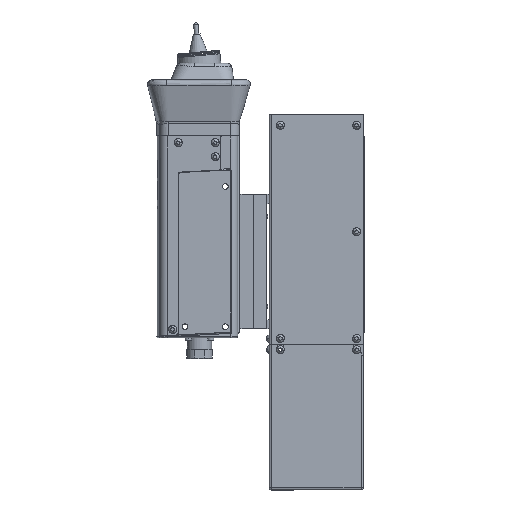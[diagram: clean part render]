
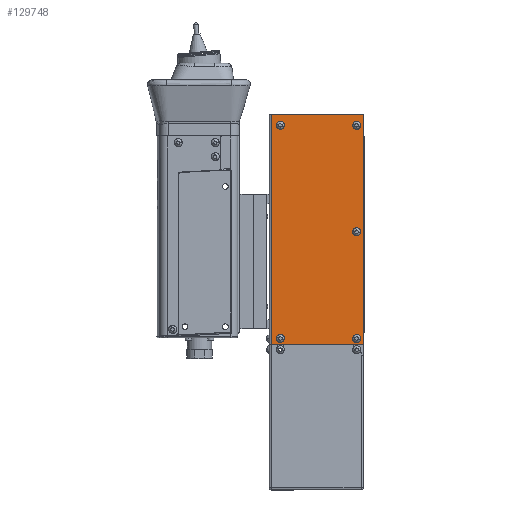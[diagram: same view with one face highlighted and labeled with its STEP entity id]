
A CAD part, left-side view. The second image highlights one B-rep face of the part: STEP entity #129748.
In plain terms, the highlighted planar face has unit normal (-1, 0, 0).
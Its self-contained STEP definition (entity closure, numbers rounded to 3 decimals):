
#93461 = CARTESIAN_POINT ( 'NONE',  ( -123., 0.498, 0.002 ) ) ;
#93584 = CARTESIAN_POINT ( 'NONE',  ( -123., 0.498, -204.998 ) ) ;
#93585 = DIRECTION ( 'NONE',  ( 0., 0., 1. ) ) ;
#93586 = VECTOR ( 'NONE', #93585, 1000. ) ;
#93587 = CARTESIAN_POINT ( 'NONE',  ( -123., 0.498, 0.002 ) ) ;
#93588 = LINE ( 'NONE', #93587, #93586 ) ;
#93633 = DIRECTION ( 'NONE',  ( 0., 0., 1. ) ) ;
#93634 = DIRECTION ( 'NONE',  ( -1., 0., 0. ) ) ;
#93635 = CARTESIAN_POINT ( 'NONE',  ( -123., 74.998, -199.998 ) ) ;
#93636 = AXIS2_PLACEMENT_3D ( 'NONE', #93635, #93634, #93633 ) ;
#93637 = CIRCLE ( 'NONE', #93636, 3. ) ;
#93638 = CARTESIAN_POINT ( 'NONE',  ( -123., 6.998, -199.998 ) ) ;
#93639 = CARTESIAN_POINT ( 'NONE',  ( -123., 74.998, -202.998 ) ) ;
#93640 = CARTESIAN_POINT ( 'NONE',  ( -123., 74.998, -196.998 ) ) ;
#93641 = DIRECTION ( 'NONE',  ( 0., 0., -1. ) ) ;
#93642 = DIRECTION ( 'NONE',  ( -1., 0., 0. ) ) ;
#93643 = CARTESIAN_POINT ( 'NONE',  ( -123., 74.998, -9.998 ) ) ;
#93644 = AXIS2_PLACEMENT_3D ( 'NONE', #93643, #93642, #93641 ) ;
#93645 = CIRCLE ( 'NONE', #93644, 3. ) ;
#93646 = CARTESIAN_POINT ( 'NONE',  ( -123., 74.998, -6.998 ) ) ;
#93647 = CARTESIAN_POINT ( 'NONE',  ( -123., 74.998, -12.998 ) ) ;
#93648 = DIRECTION ( 'NONE',  ( 0., 0., -1. ) ) ;
#93649 = DIRECTION ( 'NONE',  ( -1., 0., 0. ) ) ;
#93650 = CARTESIAN_POINT ( 'NONE',  ( -123., 74.998, -9.998 ) ) ;
#93651 = AXIS2_PLACEMENT_3D ( 'NONE', #93650, #93649, #93648 ) ;
#93652 = CIRCLE ( 'NONE', #93651, 3. ) ;
#93653 = DIRECTION ( 'NONE',  ( 0., 0., 1. ) ) ;
#93654 = DIRECTION ( 'NONE',  ( -1., 0., 0. ) ) ;
#93655 = CARTESIAN_POINT ( 'NONE',  ( -123., 6.998, -9.998 ) ) ;
#93656 = AXIS2_PLACEMENT_3D ( 'NONE', #93655, #93654, #93653 ) ;
#93657 = CIRCLE ( 'NONE', #93656, 3. ) ;
#93676 = DIRECTION ( 'NONE',  ( 0., 1., 0. ) ) ;
#93677 = VECTOR ( 'NONE', #93676, 1000. ) ;
#93678 = CARTESIAN_POINT ( 'NONE',  ( -123., 0.498, 0.002 ) ) ;
#93679 = LINE ( 'NONE', #93678, #93677 ) ;
#93680 = DIRECTION ( 'NONE',  ( 0., 1., 0. ) ) ;
#93681 = VECTOR ( 'NONE', #93680, 1000. ) ;
#93682 = CARTESIAN_POINT ( 'NONE',  ( -123., 0.498, -204.998 ) ) ;
#93683 = DIRECTION ( 'NONE',  ( 0., 0., -1. ) ) ;
#93684 = DIRECTION ( 'NONE',  ( -1., 0., 0. ) ) ;
#93685 = CARTESIAN_POINT ( 'NONE',  ( -123., 6.998, -199.998 ) ) ;
#93686 = AXIS2_PLACEMENT_3D ( 'NONE', #93685, #93684, #93683 ) ;
#93687 = CIRCLE ( 'NONE', #93686, 3. ) ;
#93688 = LINE ( 'NONE', #93682, #93681 ) ;
#93689 = CARTESIAN_POINT ( 'NONE',  ( -123., 6.998, -196.998 ) ) ;
#93690 = CARTESIAN_POINT ( 'NONE',  ( -123., 6.998, -202.998 ) ) ;
#93691 = DIRECTION ( 'NONE',  ( 0., 0., -1. ) ) ;
#93692 = DIRECTION ( 'NONE',  ( -1., 0., 0. ) ) ;
#93693 = AXIS2_PLACEMENT_3D ( 'NONE', #93638, #93692, #93691 ) ;
#93694 = CIRCLE ( 'NONE', #93693, 3. ) ;
#93709 = DIRECTION ( 'NONE',  ( 0., 0., 1. ) ) ;
#93710 = DIRECTION ( 'NONE',  ( -1., 0., 0. ) ) ;
#93711 = CARTESIAN_POINT ( 'NONE',  ( -123., 74.998, -199.998 ) ) ;
#93712 = AXIS2_PLACEMENT_3D ( 'NONE', #93711, #93710, #93709 ) ;
#93713 = CIRCLE ( 'NONE', #93712, 3. ) ;
#93758 = CARTESIAN_POINT ( 'NONE',  ( -123., 6.998, -12.998 ) ) ;
#93759 = DIRECTION ( 'NONE',  ( 0., 0., 1. ) ) ;
#93760 = DIRECTION ( 'NONE',  ( -1., 0., 0. ) ) ;
#93761 = CARTESIAN_POINT ( 'NONE',  ( -123., 6.998, -9.998 ) ) ;
#93762 = AXIS2_PLACEMENT_3D ( 'NONE', #93761, #93760, #93759 ) ;
#93763 = CIRCLE ( 'NONE', #93762, 3. ) ;
#93764 = CARTESIAN_POINT ( 'NONE',  ( -123., 6.998, -6.998 ) ) ;
#93765 = DIRECTION ( 'NONE',  ( 0., 0., -1. ) ) ;
#93766 = DIRECTION ( 'NONE',  ( -1., 0., 0. ) ) ;
#93767 = CARTESIAN_POINT ( 'NONE',  ( -123., 0.498, 0.002 ) ) ;
#93768 = AXIS2_PLACEMENT_3D ( 'NONE', #93767, #93766, #93765 ) ;
#93769 = PLANE ( 'NONE',  #93768 ) ;
#93770 = FACE_OUTER_BOUND ( 'NONE', #129695, .T. ) ;
#93771 = FACE_BOUND ( 'NONE', #129688, .T. ) ;
#93772 = FACE_BOUND ( 'NONE', #129101, .T. ) ;
#93773 = FACE_BOUND ( 'NONE', #129784, .T. ) ;
#93774 = FACE_BOUND ( 'NONE', #129677, .T. ) ;
#93775 = FACE_BOUND ( 'NONE', #129749, .T. ) ;
#93776 = DIRECTION ( 'NONE',  ( 0., 0., 1. ) ) ;
#93777 = VECTOR ( 'NONE', #93776, 1000. ) ;
#93778 = CARTESIAN_POINT ( 'NONE',  ( -123., 82.998, 0.002 ) ) ;
#93779 = LINE ( 'NONE', #93778, #93777 ) ;
#93823 = CIRCLE ( 'NONE', #93886, 3. ) ;
#93828 = CARTESIAN_POINT ( 'NONE',  ( -123., 82.998, -204.998 ) ) ;
#93840 = CARTESIAN_POINT ( 'NONE',  ( -123., 82.998, 0.002 ) ) ;
#93841 = CARTESIAN_POINT ( 'NONE',  ( -123., 6.998, -101.998 ) ) ;
#93842 = CARTESIAN_POINT ( 'NONE',  ( -123., 6.998, -107.998 ) ) ;
#93843 = DIRECTION ( 'NONE',  ( 0., 0., -1. ) ) ;
#93844 = DIRECTION ( 'NONE',  ( -1., 0., 0. ) ) ;
#93845 = CARTESIAN_POINT ( 'NONE',  ( -123., 6.998, -104.998 ) ) ;
#93846 = AXIS2_PLACEMENT_3D ( 'NONE', #93845, #93844, #93843 ) ;
#93847 = CIRCLE ( 'NONE', #93846, 3. ) ;
#93883 = DIRECTION ( 'NONE',  ( 0., 0., -1. ) ) ;
#93884 = DIRECTION ( 'NONE',  ( -1., 0., 0. ) ) ;
#93885 = CARTESIAN_POINT ( 'NONE',  ( -123., 6.998, -104.998 ) ) ;
#93886 = AXIS2_PLACEMENT_3D ( 'NONE', #93885, #93884, #93883 ) ;
#129101 = EDGE_LOOP ( 'NONE', ( #129715, #129686 ) ) ;
#129563 = VERTEX_POINT ( 'NONE', #93461 ) ;
#129645 = EDGE_CURVE ( 'NONE', #129646, #129563, #93588, .T. ) ;
#129646 = VERTEX_POINT ( 'NONE', #93584 ) ;
#129676 = EDGE_CURVE ( 'NONE', #129753, #129752, #93657, .T. ) ;
#129677 = EDGE_LOOP ( 'NONE', ( #129678, #129682 ) ) ;
#129678 = ORIENTED_EDGE ( 'NONE', *, *, #129679, .F. ) ;
#129679 = EDGE_CURVE ( 'NONE', #129680, #129681, #93652, .T. ) ;
#129680 = VERTEX_POINT ( 'NONE', #93647 ) ;
#129681 = VERTEX_POINT ( 'NONE', #93646 ) ;
#129682 = ORIENTED_EDGE ( 'NONE', *, *, #129683, .F. ) ;
#129683 = EDGE_CURVE ( 'NONE', #129681, #129680, #93645, .T. ) ;
#129684 = VERTEX_POINT ( 'NONE', #93640 ) ;
#129685 = VERTEX_POINT ( 'NONE', #93639 ) ;
#129686 = ORIENTED_EDGE ( 'NONE', *, *, #129687, .F. ) ;
#129687 = EDGE_CURVE ( 'NONE', #129685, #129684, #93637, .T. ) ;
#129688 = EDGE_LOOP ( 'NONE', ( #129689, #129693 ) ) ;
#129689 = ORIENTED_EDGE ( 'NONE', *, *, #129690, .F. ) ;
#129690 = EDGE_CURVE ( 'NONE', #129691, #129692, #93694, .T. ) ;
#129691 = VERTEX_POINT ( 'NONE', #93690 ) ;
#129692 = VERTEX_POINT ( 'NONE', #93689 ) ;
#129693 = ORIENTED_EDGE ( 'NONE', *, *, #129694, .F. ) ;
#129694 = EDGE_CURVE ( 'NONE', #129692, #129691, #93687, .T. ) ;
#129695 = EDGE_LOOP ( 'NONE', ( #129696, #129697, #129699, #129700 ) ) ;
#129696 = ORIENTED_EDGE ( 'NONE', *, *, #129747, .F. ) ;
#129697 = ORIENTED_EDGE ( 'NONE', *, *, #129698, .F. ) ;
#129698 = EDGE_CURVE ( 'NONE', #129646, #129794, #93688, .T. ) ;
#129699 = ORIENTED_EDGE ( 'NONE', *, *, #129645, .T. ) ;
#129700 = ORIENTED_EDGE ( 'NONE', *, *, #129701, .T. ) ;
#129701 = EDGE_CURVE ( 'NONE', #129563, #129789, #93679, .T. ) ;
#129715 = ORIENTED_EDGE ( 'NONE', *, *, #129716, .F. ) ;
#129716 = EDGE_CURVE ( 'NONE', #129684, #129685, #93713, .T. ) ;
#129747 = EDGE_CURVE ( 'NONE', #129794, #129789, #93779, .T. ) ;
#129748 = ADVANCED_FACE ( 'NONE', ( #93775, #93774, #93773, #93772, #93771, #93770 ), #93769, .T. ) ;
#129749 = EDGE_LOOP ( 'NONE', ( #129750, #129754 ) ) ;
#129750 = ORIENTED_EDGE ( 'NONE', *, *, #129751, .F. ) ;
#129751 = EDGE_CURVE ( 'NONE', #129752, #129753, #93763, .T. ) ;
#129752 = VERTEX_POINT ( 'NONE', #93764 ) ;
#129753 = VERTEX_POINT ( 'NONE', #93758 ) ;
#129754 = ORIENTED_EDGE ( 'NONE', *, *, #129676, .F. ) ;
#129784 = EDGE_LOOP ( 'NONE', ( #129785, #129798 ) ) ;
#129785 = ORIENTED_EDGE ( 'NONE', *, *, #129786, .F. ) ;
#129786 = EDGE_CURVE ( 'NONE', #129787, #129788, #93847, .T. ) ;
#129787 = VERTEX_POINT ( 'NONE', #93842 ) ;
#129788 = VERTEX_POINT ( 'NONE', #93841 ) ;
#129789 = VERTEX_POINT ( 'NONE', #93840 ) ;
#129794 = VERTEX_POINT ( 'NONE', #93828 ) ;
#129798 = ORIENTED_EDGE ( 'NONE', *, *, #129799, .F. ) ;
#129799 = EDGE_CURVE ( 'NONE', #129788, #129787, #93823, .T. ) ;
